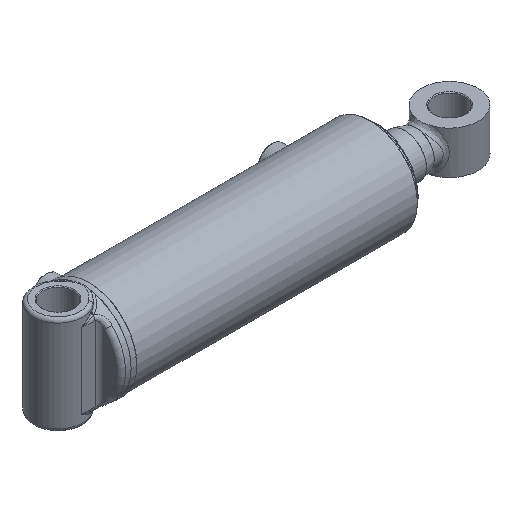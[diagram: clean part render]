
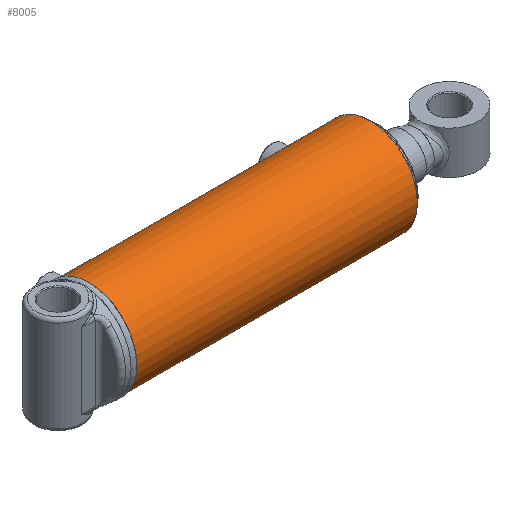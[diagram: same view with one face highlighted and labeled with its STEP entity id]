
A CAD part, isometric view. The second image highlights one B-rep face of the part: STEP entity #8005.
In plain terms, the highlighted cylindrical face has radius 49.212 mm (diameter 98.425 mm), a full revolution.
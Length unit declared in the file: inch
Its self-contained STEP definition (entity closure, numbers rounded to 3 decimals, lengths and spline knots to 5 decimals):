
#743=B_SPLINE_CURVE_WITH_KNOTS('',3,(#11893,#11894,#11895,#11896,#11897,
#11898,#11899,#11900,#11901,#11902),.UNSPECIFIED.,.F.,.F.,(4,2,2,2,4),(0.,
0.17952,0.35904,0.53855,0.71807),
 .UNSPECIFIED.);
#744=B_SPLINE_CURVE_WITH_KNOTS('',3,(#11903,#11904,#11905,#11906,#11907,
#11908,#11909,#11910,#11911,#11912,#11913,#11914,#11915,#11916,#11917,#11918,
#11919,#11920,#11921,#11922,#11923,#11924,#11925,#11926,#11927,#11928),
 .UNSPECIFIED.,.F.,.F.,(4,2,2,2,2,2,2,2,2,2,2,2,4),(0.71807,0.89759,
1.07711,1.25662,1.43614,1.61566,1.79518,
1.97469,2.15421,2.33373,2.51325,2.69276,
2.87228),.UNSPECIFIED.);
#745=B_SPLINE_CURVE_WITH_KNOTS('',3,(#11933,#11934,#11935,#11936,#11937,
#11938,#11939,#11940,#11941,#11942),.UNSPECIFIED.,.F.,.F.,(4,2,2,2,4),(0.,
0.17952,0.35904,0.53855,0.71807),
 .UNSPECIFIED.);
#746=B_SPLINE_CURVE_WITH_KNOTS('',3,(#11943,#11944,#11945,#11946,#11947,
#11948,#11949,#11950,#11951,#11952,#11953,#11954,#11955,#11956,#11957,#11958,
#11959,#11960,#11961,#11962,#11963,#11964,#11965,#11966,#11967,#11968),
 .UNSPECIFIED.,.F.,.F.,(4,2,2,2,2,2,2,2,2,2,2,2,4),(0.71807,0.89759,
1.07711,1.25662,1.43614,1.61566,1.79518,
1.97469,2.15421,2.33373,2.51325,2.69276,
2.87228),.UNSPECIFIED.);
#1052=FACE_BOUND('',#2574,.T.);
#1053=FACE_BOUND('',#2575,.T.);
#1334=LINE('',#11996,#1660);
#1660=VECTOR('',#9730,1.9375);
#1983=CYLINDRICAL_SURFACE('',#8759,1.9375);
#2077=FACE_OUTER_BOUND('',#2573,.T.);
#2573=EDGE_LOOP('',(#5643,#5644,#5645,#5646,#5647,#5648));
#2574=EDGE_LOOP('',(#5649,#5650));
#2575=EDGE_LOOP('',(#5651,#5652));
#3155=CIRCLE('',#8756,1.9375);
#3157=CIRCLE('',#8758,1.9375);
#3158=CIRCLE('',#8760,1.9375);
#3159=CIRCLE('',#8761,1.9375);
#3637=VERTEX_POINT('',#11890);
#3638=VERTEX_POINT('',#11892);
#3639=VERTEX_POINT('',#11930);
#3640=VERTEX_POINT('',#11932);
#3647=VERTEX_POINT('',#11989);
#3648=VERTEX_POINT('',#11990);
#3649=VERTEX_POINT('',#11995);
#3650=VERTEX_POINT('',#11997);
#4409=EDGE_CURVE('',#3638,#3637,#743,.T.);
#4410=EDGE_CURVE('',#3637,#3638,#744,.T.);
#4412=EDGE_CURVE('',#3640,#3639,#745,.T.);
#4413=EDGE_CURVE('',#3639,#3640,#746,.T.);
#4423=EDGE_CURVE('',#3647,#3648,#3155,.T.);
#4425=EDGE_CURVE('',#3648,#3647,#3157,.T.);
#4426=EDGE_CURVE('',#3647,#3649,#1334,.T.);
#4427=EDGE_CURVE('',#3650,#3649,#3158,.T.);
#4428=EDGE_CURVE('',#3649,#3650,#3159,.T.);
#5643=ORIENTED_EDGE('',*,*,#4423,.F.);
#5644=ORIENTED_EDGE('',*,*,#4426,.T.);
#5645=ORIENTED_EDGE('',*,*,#4427,.F.);
#5646=ORIENTED_EDGE('',*,*,#4428,.F.);
#5647=ORIENTED_EDGE('',*,*,#4426,.F.);
#5648=ORIENTED_EDGE('',*,*,#4425,.F.);
#5649=ORIENTED_EDGE('',*,*,#4409,.T.);
#5650=ORIENTED_EDGE('',*,*,#4410,.T.);
#5651=ORIENTED_EDGE('',*,*,#4412,.T.);
#5652=ORIENTED_EDGE('',*,*,#4413,.T.);
#8005=ADVANCED_FACE('',(#2077,#1052,#1053),#1983,.T.);
#8756=AXIS2_PLACEMENT_3D('',#11991,#9722,#9723);
#8758=AXIS2_PLACEMENT_3D('',#11993,#9726,#9727);
#8759=AXIS2_PLACEMENT_3D('',#11994,#9728,#9729);
#8760=AXIS2_PLACEMENT_3D('',#11998,#9731,#9732);
#8761=AXIS2_PLACEMENT_3D('',#11999,#9733,#9734);
#9722=DIRECTION('center_axis',(1.,0.,0.));
#9723=DIRECTION('ref_axis',(0.,-1.,0.));
#9726=DIRECTION('center_axis',(1.,0.,0.));
#9727=DIRECTION('ref_axis',(0.,-1.,0.));
#9728=DIRECTION('center_axis',(1.,0.,0.));
#9729=DIRECTION('ref_axis',(0.,-1.,0.));
#9730=DIRECTION('',(-1.,0.,0.));
#9731=DIRECTION('center_axis',(-1.,0.,0.));
#9732=DIRECTION('ref_axis',(0.,-1.,0.));
#9733=DIRECTION('center_axis',(-1.,0.,0.));
#9734=DIRECTION('ref_axis',(0.,-1.,0.));
#11890=CARTESIAN_POINT('',(0.7225,0.,1.9375));
#11892=CARTESIAN_POINT('',(0.91,-0.1875,1.92841));
#11893=CARTESIAN_POINT('Ctrl Pts',(0.91,-0.1875,1.92841));
#11894=CARTESIAN_POINT('Ctrl Pts',(0.88644,-0.1875,1.92841));
#11895=CARTESIAN_POINT('Ctrl Pts',(0.86132,-0.18279,
1.92888));
#11896=CARTESIAN_POINT('Ctrl Pts',(0.81513,-0.16365,
1.9306));
#11897=CARTESIAN_POINT('Ctrl Pts',(0.79406,-0.14922,
1.93182));
#11898=CARTESIAN_POINT('Ctrl Pts',(0.76078,-0.11594,
1.9341));
#11899=CARTESIAN_POINT('Ctrl Pts',(0.74635,-0.09487,
1.93531));
#11900=CARTESIAN_POINT('Ctrl Pts',(0.72721,-0.04868,
1.93703));
#11901=CARTESIAN_POINT('Ctrl Pts',(0.7225,-0.02356,1.9375));
#11902=CARTESIAN_POINT('Ctrl Pts',(0.7225,0.,1.9375));
#11903=CARTESIAN_POINT('Ctrl Pts',(0.7225,0.,1.9375));
#11904=CARTESIAN_POINT('Ctrl Pts',(0.7225,0.02356,1.9375));
#11905=CARTESIAN_POINT('Ctrl Pts',(0.72721,0.04868,
1.93703));
#11906=CARTESIAN_POINT('Ctrl Pts',(0.74635,0.09487,
1.93531));
#11907=CARTESIAN_POINT('Ctrl Pts',(0.76078,0.11594,
1.9341));
#11908=CARTESIAN_POINT('Ctrl Pts',(0.79406,0.14922,
1.93182));
#11909=CARTESIAN_POINT('Ctrl Pts',(0.81513,0.16365,
1.9306));
#11910=CARTESIAN_POINT('Ctrl Pts',(0.86132,0.18279,
1.92888));
#11911=CARTESIAN_POINT('Ctrl Pts',(0.88644,0.1875,1.92841));
#11912=CARTESIAN_POINT('Ctrl Pts',(0.93356,0.1875,1.92841));
#11913=CARTESIAN_POINT('Ctrl Pts',(0.95868,0.18279,
1.92888));
#11914=CARTESIAN_POINT('Ctrl Pts',(1.00487,0.16365,1.9306));
#11915=CARTESIAN_POINT('Ctrl Pts',(1.02594,0.14922,1.93182));
#11916=CARTESIAN_POINT('Ctrl Pts',(1.05922,0.11594,1.9341));
#11917=CARTESIAN_POINT('Ctrl Pts',(1.07365,0.09487,
1.93531));
#11918=CARTESIAN_POINT('Ctrl Pts',(1.09279,0.04868,
1.93703));
#11919=CARTESIAN_POINT('Ctrl Pts',(1.0975,0.02356,1.9375));
#11920=CARTESIAN_POINT('Ctrl Pts',(1.0975,-0.02356,1.9375));
#11921=CARTESIAN_POINT('Ctrl Pts',(1.09279,-0.04868,
1.93703));
#11922=CARTESIAN_POINT('Ctrl Pts',(1.07365,-0.09487,
1.93531));
#11923=CARTESIAN_POINT('Ctrl Pts',(1.05922,-0.11594,
1.9341));
#11924=CARTESIAN_POINT('Ctrl Pts',(1.02594,-0.14922,
1.93182));
#11925=CARTESIAN_POINT('Ctrl Pts',(1.00487,-0.16365,
1.9306));
#11926=CARTESIAN_POINT('Ctrl Pts',(0.95868,-0.18279,
1.92888));
#11927=CARTESIAN_POINT('Ctrl Pts',(0.93356,-0.1875,1.92841));
#11928=CARTESIAN_POINT('Ctrl Pts',(0.91,-0.1875,1.92841));
#11930=CARTESIAN_POINT('',(9.9425,0.,1.9375));
#11932=CARTESIAN_POINT('',(10.13,-0.1875,1.92841));
#11933=CARTESIAN_POINT('Ctrl Pts',(10.13,-0.1875,1.92841));
#11934=CARTESIAN_POINT('Ctrl Pts',(10.10644,-0.1875,
1.92841));
#11935=CARTESIAN_POINT('Ctrl Pts',(10.08132,-0.18279,
1.92888));
#11936=CARTESIAN_POINT('Ctrl Pts',(10.03513,-0.16365,1.9306));
#11937=CARTESIAN_POINT('Ctrl Pts',(10.01406,-0.14922,1.93182));
#11938=CARTESIAN_POINT('Ctrl Pts',(9.98078,-0.11594,1.9341));
#11939=CARTESIAN_POINT('Ctrl Pts',(9.96635,-0.09487,
1.93531));
#11940=CARTESIAN_POINT('Ctrl Pts',(9.94721,-0.04868,
1.93703));
#11941=CARTESIAN_POINT('Ctrl Pts',(9.9425,-0.02356,1.9375));
#11942=CARTESIAN_POINT('Ctrl Pts',(9.9425,0.,1.9375));
#11943=CARTESIAN_POINT('Ctrl Pts',(9.9425,0.,1.9375));
#11944=CARTESIAN_POINT('Ctrl Pts',(9.9425,0.02356,1.9375));
#11945=CARTESIAN_POINT('Ctrl Pts',(9.94721,0.04868,
1.93703));
#11946=CARTESIAN_POINT('Ctrl Pts',(9.96635,0.09487,
1.93531));
#11947=CARTESIAN_POINT('Ctrl Pts',(9.98078,0.11594,1.9341));
#11948=CARTESIAN_POINT('Ctrl Pts',(10.01406,0.14922,1.93182));
#11949=CARTESIAN_POINT('Ctrl Pts',(10.03513,0.16365,1.9306));
#11950=CARTESIAN_POINT('Ctrl Pts',(10.08132,0.18279,1.92888));
#11951=CARTESIAN_POINT('Ctrl Pts',(10.10644,0.1875,1.92841));
#11952=CARTESIAN_POINT('Ctrl Pts',(10.15356,0.1875,1.92841));
#11953=CARTESIAN_POINT('Ctrl Pts',(10.17868,0.18279,1.92888));
#11954=CARTESIAN_POINT('Ctrl Pts',(10.22487,0.16365,1.9306));
#11955=CARTESIAN_POINT('Ctrl Pts',(10.24594,0.14922,1.93182));
#11956=CARTESIAN_POINT('Ctrl Pts',(10.27922,0.11594,1.9341));
#11957=CARTESIAN_POINT('Ctrl Pts',(10.29365,0.09487,1.93531));
#11958=CARTESIAN_POINT('Ctrl Pts',(10.31279,0.04868,
1.93703));
#11959=CARTESIAN_POINT('Ctrl Pts',(10.3175,0.02356,1.9375));
#11960=CARTESIAN_POINT('Ctrl Pts',(10.3175,-0.02356,1.9375));
#11961=CARTESIAN_POINT('Ctrl Pts',(10.31279,-0.04868,
1.93703));
#11962=CARTESIAN_POINT('Ctrl Pts',(10.29365,-0.09487,
1.93531));
#11963=CARTESIAN_POINT('Ctrl Pts',(10.27922,-0.11594,1.9341));
#11964=CARTESIAN_POINT('Ctrl Pts',(10.24594,-0.14922,1.93182));
#11965=CARTESIAN_POINT('Ctrl Pts',(10.22487,-0.16365,1.9306));
#11966=CARTESIAN_POINT('Ctrl Pts',(10.17868,-0.18279,
1.92888));
#11967=CARTESIAN_POINT('Ctrl Pts',(10.15356,-0.1875,
1.92841));
#11968=CARTESIAN_POINT('Ctrl Pts',(10.13,-0.1875,1.92841));
#11989=CARTESIAN_POINT('',(11.56,1.9375,0.));
#11990=CARTESIAN_POINT('',(11.56,0.,-1.9375));
#11991=CARTESIAN_POINT('Origin',(11.56,0.,0.));
#11993=CARTESIAN_POINT('Origin',(11.56,0.,0.));
#11994=CARTESIAN_POINT('Origin',(0.,0.,0.));
#11995=CARTESIAN_POINT('',(0.09382,1.9375,0.));
#11996=CARTESIAN_POINT('',(0.,1.9375,0.));
#11997=CARTESIAN_POINT('',(0.09382,0.,1.9375));
#11998=CARTESIAN_POINT('Origin',(0.09382,0.,0.));
#11999=CARTESIAN_POINT('Origin',(0.09382,0.,0.));
